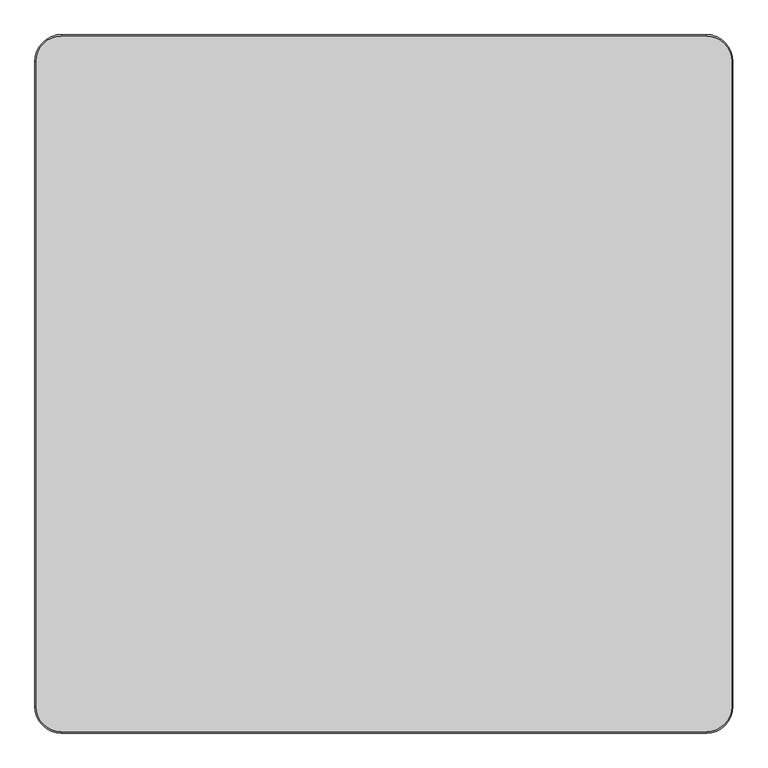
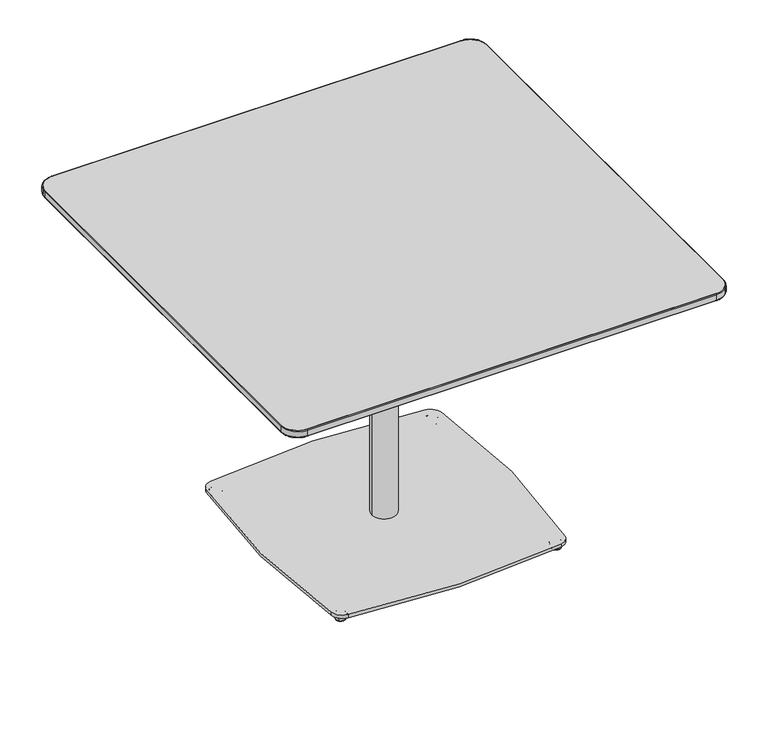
"""IFC4 building model written with IfcOpenShell, lengths in millimetres: furniture geometry, Coalesse_AM_Table_Conference_Montara650_WorkHeight_Square : 42D x 42W."""

from ifc_helpers import new_model, si_unit, point, frame, frame_2d, origin, place, context, project, spatial, polyline, circle_curve, ellipse_curve, trimmed, segment, composite_curve, outline, extrude, source, transform, mapped, element, save
from ifc_brep_helpers import plane_surface, cylinder_surface, revolved_surface, spline_surface, advanced_brep


def furniture_07d230b4(model_context):
    return source(origin(), model_context, "Body", "SolidModel", [
        advanced_brep(
        [(252.2843813, 244.9990703, 0.0), (266.9696661, 259.6843552, 0.0), (259.6270237, 252.3417127, 0.0), (251.7378791, 244.4525682, 0.5718943), (267.5161683, 260.2308573, 0.5718943), (249.43878, 242.1534691, 11.2068005), (269.8152674, 262.5299564, 11.2068005), (249.8538008, 242.5684899, 11.9999882), (269.4002466, 262.1149356, 11.9999882), (259.6270237, 252.3417127, 11.9999882)],
        [
            (0, 1, circle_curve(frame((259.6270237, 252.3417127, 0.0), z_axis=(0.0, 0.0, -1.0), x_axis=(0.7071067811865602, 0.7071067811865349, 0.0)), 10.3840645)),
            (1, 2),
            (2, 0),
            (1, 0, circle_curve(frame((259.6270237, 252.3417127, 0.0), z_axis=(0.0, 0.0, -1.0), x_axis=(0.7071067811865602, 0.7071067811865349, 0.0)), 10.3840645)),
            (3, 4, circle_curve(frame((259.6270237, 252.3417127, 0.5718943), z_axis=(0.0, 0.0, -1.0), x_axis=(0.7071067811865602, 0.7071067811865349, 0.0)), 11.1569353)),
            (4, 1, circle_curve(frame((266.9696661, 259.6843552, 0.8081846), z_axis=(-0.7071067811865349, 0.7071067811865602, 0.0), x_axis=(0.7071067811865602, 0.7071067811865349, 0.0)), 0.8081846)),
            (0, 3, circle_curve(frame((252.2843813, 244.9990703, 0.8081846), z_axis=(-0.7071067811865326, 0.7071067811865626, 0.0), x_axis=(-0.7071067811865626, -0.7071067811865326, 0.0)), 0.8081846)),
            (4, 3, circle_curve(frame((259.6270237, 252.3417127, 0.5718943), z_axis=(0.0, 0.0, -1.0), x_axis=(0.7071067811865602, 0.7071067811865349, 0.0)), 11.1569353)),
            (5, 6, circle_curve(frame((259.6270237, 252.3417127, 11.2068005), z_axis=(0.0, 0.0, -1.0), x_axis=(0.7071067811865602, 0.7071067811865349, 0.0)), 14.4083524)),
            (6, 4),
            (3, 5),
            (6, 5, circle_curve(frame((259.6270237, 252.3417127, 11.2068005), z_axis=(0.0, 0.0, -1.0), x_axis=(0.7071067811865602, 0.7071067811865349, 0.0)), 14.4083524)),
            (7, 8, circle_curve(frame((259.6270237, 252.3417127, 11.9999882), z_axis=(0.0, 0.0, -1.0), x_axis=(0.7071067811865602, 0.7071067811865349, 0.0)), 13.8214243)),
            (8, 6, circle_curve(frame((269.4002466, 262.1149356, 11.3862424), z_axis=(-0.7071067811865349, 0.7071067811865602, 0.0), x_axis=(0.7071067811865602, 0.7071067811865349, 0.0)), 0.6137458)),
            (5, 7, circle_curve(frame((249.8538008, 242.5684899, 11.3862424), z_axis=(-0.7071067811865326, 0.7071067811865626, 0.0), x_axis=(-0.7071067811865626, -0.7071067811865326, 0.0)), 0.6137458)),
            (8, 7, circle_curve(frame((259.6270237, 252.3417127, 11.9999882), z_axis=(0.0, 0.0, -1.0), x_axis=(0.7071067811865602, 0.7071067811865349, 0.0)), 13.8214243)),
            (9, 8),
            (7, 9),
        ],
        [
            plane_surface(frame((259.6270237, 252.3417127, 0.0), z_axis=(0.0, 0.0, -1.0000000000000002), x_axis=(0.7071067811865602, 0.7071067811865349, 0.0))),
            revolved_surface(trimmed(ellipse_curve(frame((266.9696661, 259.6843552, 0.8081846), z_axis=(0.7071067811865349, -0.7071067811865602, 0.0), x_axis=(0.7071067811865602, 0.7071067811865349, 0.0)), 0.8081846, 0.8081846), [point((266.9696661, 259.6843552, 0.0))], [point((267.5161683, 260.2308573, 0.5718943))], True, "CARTESIAN"), (259.6270237, 252.3417127, 12.2086845), (0.0, 0.0, 1.0)),
            revolved_surface(polyline([(267.5161683, 260.2308573, 0.5718943), (269.8152674, 262.5299564, 11.2068005)]), (259.6270237, 252.3417127, 12.2086845), (0.0, 0.0, 1.0)),
            revolved_surface(trimmed(ellipse_curve(frame((269.4002466, 262.1149356, 11.3862424), z_axis=(0.7071067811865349, -0.7071067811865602, 0.0), x_axis=(0.7071067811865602, 0.7071067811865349, 0.0)), 0.6137458, 0.6137458), [point((269.8152674, 262.5299564, 11.2068005))], [point((269.4002466, 262.1149356, 11.9999882))], True, "CARTESIAN"), (259.6270237, 252.3417127, 12.2086845), (0.0, 0.0, 1.0)),
            plane_surface(frame((259.6270237, 252.3417127, 11.9999882), z_axis=(0.0, 0.0, 1.0000000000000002), x_axis=(0.7071067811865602, 0.7071067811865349, 0.0))),
        ],
        [
            (0, [[1, 2, 3]]),
            (0, [[4, -3, -2]]),
            (1, [[5, 6, -1, 7]]),
            (1, [[8, -7, -4, -6]]),
            (2, [[9, 10, -5, 11]]),
            (2, [[12, -11, -8, -10]]),
            (3, [[13, 14, -9, 15]]),
            (3, [[16, -15, -12, -14]]),
            (4, [[17, -13, 18]]),
            (4, [[-18, -16, -17]]),
        ],
    ),
        advanced_brep(
        [(259.6270237, -268.2167127, 0.0), (266.9696661, -275.5593552, 0.0), (252.2843813, -260.8740703, 0.0), (267.5161683, -276.1058573, 0.5718943), (251.7378791, -260.3275682, 0.5718943), (269.8152674, -278.4049564, 11.2068005), (249.43878, -258.0284691, 11.2068005), (269.4002466, -277.9899356, 11.9999882), (249.8538008, -258.4434899, 11.9999882), (259.6270237, -268.2167127, 11.9999882)],
        [
            (0, 1),
            (1, 2, circle_curve(frame((259.6270237, -268.2167127, 0.0), z_axis=(0.0, 0.0, -1.0), x_axis=(0.7071067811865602, -0.7071067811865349, 0.0)), 10.3840645)),
            (2, 0),
            (2, 1, circle_curve(frame((259.6270237, -268.2167127, 0.0), z_axis=(0.0, 0.0, -1.0), x_axis=(0.7071067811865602, -0.7071067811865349, 0.0)), 10.3840645)),
            (1, 3, circle_curve(frame((266.9696661, -275.5593552, 0.8081846), z_axis=(-0.7071067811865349, -0.7071067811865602, 0.0), x_axis=(0.7071067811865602, -0.7071067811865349, 0.0)), 0.8081846)),
            (3, 4, circle_curve(frame((259.6270237, -268.2167127, 0.5718943), z_axis=(0.0, 0.0, -1.0), x_axis=(0.7071067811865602, -0.7071067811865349, 0.0)), 11.1569353)),
            (4, 2, circle_curve(frame((252.2843813, -260.8740703, 0.8081846), z_axis=(-0.7071067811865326, -0.7071067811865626, 0.0), x_axis=(-0.7071067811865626, 0.7071067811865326, 0.0)), 0.8081846)),
            (4, 3, circle_curve(frame((259.6270237, -268.2167127, 0.5718943), z_axis=(0.0, 0.0, -1.0), x_axis=(0.7071067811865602, -0.7071067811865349, 0.0)), 11.1569353)),
            (3, 5),
            (5, 6, circle_curve(frame((259.6270237, -268.2167127, 11.2068005), z_axis=(0.0, 0.0, -1.0), x_axis=(0.7071067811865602, -0.7071067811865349, 0.0)), 14.4083524)),
            (6, 4),
            (6, 5, circle_curve(frame((259.6270237, -268.2167127, 11.2068005), z_axis=(0.0, 0.0, -1.0), x_axis=(0.7071067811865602, -0.7071067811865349, 0.0)), 14.4083524)),
            (5, 7, circle_curve(frame((269.4002466, -277.9899356, 11.3862424), z_axis=(-0.7071067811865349, -0.7071067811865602, 0.0), x_axis=(0.7071067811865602, -0.7071067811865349, 0.0)), 0.6137458)),
            (7, 8, circle_curve(frame((259.6270237, -268.2167127, 11.9999882), z_axis=(0.0, 0.0, -1.0), x_axis=(0.7071067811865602, -0.7071067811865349, 0.0)), 13.8214243)),
            (8, 6, circle_curve(frame((249.8538008, -258.4434899, 11.3862424), z_axis=(-0.7071067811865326, -0.7071067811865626, 0.0), x_axis=(-0.7071067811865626, 0.7071067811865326, 0.0)), 0.6137458)),
            (8, 7, circle_curve(frame((259.6270237, -268.2167127, 11.9999882), z_axis=(0.0, 0.0, -1.0), x_axis=(0.7071067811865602, -0.7071067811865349, 0.0)), 13.8214243)),
            (7, 9),
            (9, 8),
        ],
        [
            plane_surface(frame((259.6270237, -268.2167127, 0.0), z_axis=(0.0, 0.0, -1.0000000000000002), x_axis=(0.7071067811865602, -0.7071067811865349, 0.0))),
            revolved_surface(trimmed(ellipse_curve(frame((266.9696661, -275.5593552, 0.8081846), z_axis=(0.7071067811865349, 0.7071067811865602, 0.0), x_axis=(0.7071067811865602, -0.7071067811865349, 0.0)), 0.8081846, 0.8081846), [point((267.5161683, -276.1058573, 0.5718943))], [point((266.9696661, -275.5593552, 0.0))], True, "CARTESIAN"), (259.6270237, -268.2167127, 12.2086845), (0.0, 0.0, -1.0)),
            revolved_surface(polyline([(269.8152674, -278.4049564, 11.2068005), (267.5161683, -276.1058573, 0.5718943)]), (259.6270237, -268.2167127, 12.2086845), (0.0, 0.0, -1.0)),
            revolved_surface(trimmed(ellipse_curve(frame((269.4002466, -277.9899356, 11.3862424), z_axis=(0.7071067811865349, 0.7071067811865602, 0.0), x_axis=(0.7071067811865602, -0.7071067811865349, 0.0)), 0.6137458, 0.6137458), [point((269.4002466, -277.9899356, 11.9999882))], [point((269.8152674, -278.4049564, 11.2068005))], True, "CARTESIAN"), (259.6270237, -268.2167127, 12.2086845), (0.0, 0.0, -1.0)),
            plane_surface(frame((259.6270237, -268.2167127, 11.9999882), z_axis=(0.0, 0.0, 1.0000000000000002), x_axis=(0.7071067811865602, -0.7071067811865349, 0.0))),
        ],
        [
            (0, [[1, 2, 3]]),
            (0, [[-3, 4, -1]]),
            (1, [[-2, 5, 6, 7]]),
            (1, [[-4, -7, 8, -5]]),
            (2, [[-6, 9, 10, 11]]),
            (2, [[-8, -11, 12, -9]]),
            (3, [[-10, 13, 14, 15]]),
            (3, [[-12, -15, 16, -13]]),
            (4, [[-14, 17, 18]]),
            (4, [[-16, -18, -17]]),
        ],
    ),
        extrude(outline(composite_curve([segment(trimmed(circle_curve(frame_2d((252.4620101, 244.7741595)), 31.75), [point((257.2212429, 276.1654354))], [point((283.8374336, 249.6368029))], False, "CARTESIAN"), True, "CONTINUOUS"), segment(trimmed(circle_curve(frame_2d((-1338.8141764, -1.8458925)), 1642.0236885), [point((283.8374336, 249.6368029))], [point((281.5966066, -267.3843791))], False, "CARTESIAN"), True, "CONTINUOUS"), segment(trimmed(circle_curve(frame_2d((256.5309305, -263.2768394)), 25.4), [point((281.5966066, -267.3843791))], [point((260.3854879, -288.3826631))], False, "CARTESIAN"), True, "CONTINUOUS"), segment(trimmed(circle_curve(frame_2d((1.8210899, 1395.720493)), 1703.8365498), [point((260.3854879, -288.3826631))], [point((-253.486505, -288.8794656))], False, "CARTESIAN"), True, "CONTINUOUS"), segment(trimmed(circle_curve(frame_2d((-248.7289969, -257.4879282)), 31.75), [point((-253.486505, -288.8794656))], [point((-280.1193859, -262.2530073))], False, "CARTESIAN"), True, "CONTINUOUS"), segment(trimmed(circle_curve(frame_2d((1447.4963883, 5.89e-05)), 1747.4074894), [point((-280.1193859, -262.2530073))], [point((-281.3896101, 253.7442979))], False, "CARTESIAN"), True, "CONTINUOUS"), segment(trimmed(circle_curve(frame_2d((-256.2588351, 250.0559175)), 25.4), [point((-281.3896101, 253.7442979))], [point((-260.1643924, 275.1538581))], False, "CARTESIAN"), True, "CONTINUOUS"), segment(trimmed(circle_curve(frame_2d((1.8210899, -1408.420493)), 1703.8365498), [point((-260.1643924, 275.1538581))], [point((257.2212429, 276.1654354))], False, "CARTESIAN"), True, "CONTINUOUS")], self_intersect=False)), frame((0.0, 0.0, 11.9999882), z_axis=(0.0, 0.0, 1.0), x_axis=(1.0, 0.0, 0.0)), (0.0, 0.0, 1.0), 8.0000083),
        advanced_brep(
        [(-259.6270237, 252.3417127, 0.0), (-266.9696661, 259.6843552, 0.0), (-252.2843813, 244.9990703, 0.0), (-267.5161683, 260.2308573, 0.5718943), (-251.7378791, 244.4525682, 0.5718943), (-269.8152674, 262.5299564, 11.2068005), (-249.43878, 242.1534691, 11.2068005), (-269.4002466, 262.1149356, 11.9999882), (-249.8538008, 242.5684899, 11.9999882), (-259.6270237, 252.3417127, 11.9999882)],
        [
            (0, 1),
            (1, 2, circle_curve(frame((-259.6270237, 252.3417127, 0.0), z_axis=(0.0, 0.0, -1.0), x_axis=(-0.7071067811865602, 0.7071067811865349, 0.0)), 10.3840645)),
            (2, 0),
            (2, 1, circle_curve(frame((-259.6270237, 252.3417127, 0.0), z_axis=(0.0, 0.0, -1.0), x_axis=(-0.7071067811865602, 0.7071067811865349, 0.0)), 10.3840645)),
            (1, 3, circle_curve(frame((-266.9696661, 259.6843552, 0.8081846), z_axis=(0.7071067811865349, 0.7071067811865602, 0.0), x_axis=(-0.7071067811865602, 0.7071067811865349, 0.0)), 0.8081846)),
            (3, 4, circle_curve(frame((-259.6270237, 252.3417127, 0.5718943), z_axis=(0.0, 0.0, -1.0), x_axis=(-0.7071067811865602, 0.7071067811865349, 0.0)), 11.1569353)),
            (4, 2, circle_curve(frame((-252.2843813, 244.9990703, 0.8081846), z_axis=(0.7071067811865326, 0.7071067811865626, 0.0), x_axis=(0.7071067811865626, -0.7071067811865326, 0.0)), 0.8081846)),
            (4, 3, circle_curve(frame((-259.6270237, 252.3417127, 0.5718943), z_axis=(0.0, 0.0, -1.0), x_axis=(-0.7071067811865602, 0.7071067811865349, 0.0)), 11.1569353)),
            (3, 5),
            (5, 6, circle_curve(frame((-259.6270237, 252.3417127, 11.2068005), z_axis=(0.0, 0.0, -1.0), x_axis=(-0.7071067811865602, 0.7071067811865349, 0.0)), 14.4083524)),
            (6, 4),
            (6, 5, circle_curve(frame((-259.6270237, 252.3417127, 11.2068005), z_axis=(0.0, 0.0, -1.0), x_axis=(-0.7071067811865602, 0.7071067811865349, 0.0)), 14.4083524)),
            (5, 7, circle_curve(frame((-269.4002466, 262.1149356, 11.3862424), z_axis=(0.7071067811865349, 0.7071067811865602, 0.0), x_axis=(-0.7071067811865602, 0.7071067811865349, 0.0)), 0.6137458)),
            (7, 8, circle_curve(frame((-259.6270237, 252.3417127, 11.9999882), z_axis=(0.0, 0.0, -1.0), x_axis=(-0.7071067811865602, 0.7071067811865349, 0.0)), 13.8214243)),
            (8, 6, circle_curve(frame((-249.8538008, 242.5684899, 11.3862424), z_axis=(0.7071067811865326, 0.7071067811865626, 0.0), x_axis=(0.7071067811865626, -0.7071067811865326, 0.0)), 0.6137458)),
            (8, 7, circle_curve(frame((-259.6270237, 252.3417127, 11.9999882), z_axis=(0.0, 0.0, -1.0), x_axis=(-0.7071067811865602, 0.7071067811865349, 0.0)), 13.8214243)),
            (7, 9),
            (9, 8),
        ],
        [
            plane_surface(frame((-259.6270237, 252.3417127, 0.0), z_axis=(0.0, 0.0, -1.0000000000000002), x_axis=(-0.7071067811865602, 0.7071067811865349, 0.0))),
            revolved_surface(trimmed(ellipse_curve(frame((-266.9696661, 259.6843552, 0.8081846), z_axis=(-0.7071067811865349, -0.7071067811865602, 0.0), x_axis=(-0.7071067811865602, 0.7071067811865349, 0.0)), 0.8081846, 0.8081846), [point((-267.5161683, 260.2308573, 0.5718943))], [point((-266.9696661, 259.6843552, 0.0))], True, "CARTESIAN"), (-259.6270237, 252.3417127, 12.2086845), (0.0, 0.0, -1.0)),
            revolved_surface(polyline([(-269.8152674, 262.5299564, 11.2068005), (-267.5161683, 260.2308573, 0.5718943)]), (-259.6270237, 252.3417127, 12.2086845), (0.0, 0.0, -1.0)),
            revolved_surface(trimmed(ellipse_curve(frame((-269.4002466, 262.1149356, 11.3862424), z_axis=(-0.7071067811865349, -0.7071067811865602, 0.0), x_axis=(-0.7071067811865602, 0.7071067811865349, 0.0)), 0.6137458, 0.6137458), [point((-269.4002466, 262.1149356, 11.9999882))], [point((-269.8152674, 262.5299564, 11.2068005))], True, "CARTESIAN"), (-259.6270237, 252.3417127, 12.2086845), (0.0, 0.0, -1.0)),
            plane_surface(frame((-259.6270237, 252.3417127, 11.9999882), z_axis=(0.0, 0.0, 1.0000000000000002), x_axis=(-0.7071067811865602, 0.7071067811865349, 0.0))),
        ],
        [
            (0, [[1, 2, 3]]),
            (0, [[-3, 4, -1]]),
            (1, [[-2, 5, 6, 7]]),
            (1, [[-4, -7, 8, -5]]),
            (2, [[-6, 9, 10, 11]]),
            (2, [[-8, -11, 12, -9]]),
            (3, [[-10, 13, 14, 15]]),
            (3, [[-12, -15, 16, -13]]),
            (4, [[-14, 17, 18]]),
            (4, [[-16, -18, -17]]),
        ],
    ),
        advanced_brep(
        [(-252.2843813, -260.8740703, 0.0), (-266.9696661, -275.5593552, 0.0), (-259.6270237, -268.2167127, 0.0), (-251.7378791, -260.3275682, 0.5718943), (-267.5161683, -276.1058573, 0.5718943), (-249.43878, -258.0284691, 11.2068005), (-269.8152674, -278.4049564, 11.2068005), (-249.8538008, -258.4434899, 11.9999882), (-269.4002466, -277.9899356, 11.9999882), (-259.6270237, -268.2167127, 11.9999882)],
        [
            (0, 1, circle_curve(frame((-259.6270237, -268.2167127, 0.0), z_axis=(0.0, 0.0, -1.0), x_axis=(-0.7071067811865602, -0.7071067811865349, 0.0)), 10.3840645)),
            (1, 2),
            (2, 0),
            (1, 0, circle_curve(frame((-259.6270237, -268.2167127, 0.0), z_axis=(0.0, 0.0, -1.0), x_axis=(-0.7071067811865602, -0.7071067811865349, 0.0)), 10.3840645)),
            (3, 4, circle_curve(frame((-259.6270237, -268.2167127, 0.5718943), z_axis=(0.0, 0.0, -1.0), x_axis=(-0.7071067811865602, -0.7071067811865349, 0.0)), 11.1569353)),
            (4, 1, circle_curve(frame((-266.9696661, -275.5593552, 0.8081846), z_axis=(0.7071067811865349, -0.7071067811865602, 0.0), x_axis=(-0.7071067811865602, -0.7071067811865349, 0.0)), 0.8081846)),
            (0, 3, circle_curve(frame((-252.2843813, -260.8740703, 0.8081846), z_axis=(0.7071067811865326, -0.7071067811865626, 0.0), x_axis=(0.7071067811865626, 0.7071067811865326, 0.0)), 0.8081846)),
            (4, 3, circle_curve(frame((-259.6270237, -268.2167127, 0.5718943), z_axis=(0.0, 0.0, -1.0), x_axis=(-0.7071067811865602, -0.7071067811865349, 0.0)), 11.1569353)),
            (5, 6, circle_curve(frame((-259.6270237, -268.2167127, 11.2068005), z_axis=(0.0, 0.0, -1.0), x_axis=(-0.7071067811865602, -0.7071067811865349, 0.0)), 14.4083524)),
            (6, 4),
            (3, 5),
            (6, 5, circle_curve(frame((-259.6270237, -268.2167127, 11.2068005), z_axis=(0.0, 0.0, -1.0), x_axis=(-0.7071067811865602, -0.7071067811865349, 0.0)), 14.4083524)),
            (7, 8, circle_curve(frame((-259.6270237, -268.2167127, 11.9999882), z_axis=(0.0, 0.0, -1.0), x_axis=(-0.7071067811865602, -0.7071067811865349, 0.0)), 13.8214243)),
            (8, 6, circle_curve(frame((-269.4002466, -277.9899356, 11.3862424), z_axis=(0.7071067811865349, -0.7071067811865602, 0.0), x_axis=(-0.7071067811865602, -0.7071067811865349, 0.0)), 0.6137458)),
            (5, 7, circle_curve(frame((-249.8538008, -258.4434899, 11.3862424), z_axis=(0.7071067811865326, -0.7071067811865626, 0.0), x_axis=(0.7071067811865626, 0.7071067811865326, 0.0)), 0.6137458)),
            (8, 7, circle_curve(frame((-259.6270237, -268.2167127, 11.9999882), z_axis=(0.0, 0.0, -1.0), x_axis=(-0.7071067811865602, -0.7071067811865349, 0.0)), 13.8214243)),
            (9, 8),
            (7, 9),
        ],
        [
            plane_surface(frame((-259.6270237, -268.2167127, 0.0), z_axis=(0.0, 0.0, -1.0000000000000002), x_axis=(-0.7071067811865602, -0.7071067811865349, 0.0))),
            revolved_surface(trimmed(ellipse_curve(frame((-266.9696661, -275.5593552, 0.8081846), z_axis=(-0.7071067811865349, 0.7071067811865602, 0.0), x_axis=(-0.7071067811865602, -0.7071067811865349, 0.0)), 0.8081846, 0.8081846), [point((-266.9696661, -275.5593552, 0.0))], [point((-267.5161683, -276.1058573, 0.5718943))], True, "CARTESIAN"), (-259.6270237, -268.2167127, 12.2086845), (0.0, 0.0, 1.0)),
            revolved_surface(polyline([(-267.5161683, -276.1058573, 0.5718943), (-269.8152674, -278.4049564, 11.2068005)]), (-259.6270237, -268.2167127, 12.2086845), (0.0, 0.0, 1.0)),
            revolved_surface(trimmed(ellipse_curve(frame((-269.4002466, -277.9899356, 11.3862424), z_axis=(-0.7071067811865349, 0.7071067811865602, 0.0), x_axis=(-0.7071067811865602, -0.7071067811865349, 0.0)), 0.6137458, 0.6137458), [point((-269.8152674, -278.4049564, 11.2068005))], [point((-269.4002466, -277.9899356, 11.9999882))], True, "CARTESIAN"), (-259.6270237, -268.2167127, 12.2086845), (0.0, 0.0, 1.0)),
            plane_surface(frame((-259.6270237, -268.2167127, 11.9999882), z_axis=(0.0, 0.0, 1.0000000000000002), x_axis=(-0.7071067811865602, -0.7071067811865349, 0.0))),
        ],
        [
            (0, [[1, 2, 3]]),
            (0, [[4, -3, -2]]),
            (1, [[5, 6, -1, 7]]),
            (1, [[8, -7, -4, -6]]),
            (2, [[9, 10, -5, 11]]),
            (2, [[12, -11, -8, -10]]),
            (3, [[13, 14, -9, 15]]),
            (3, [[16, -15, -12, -14]]),
            (4, [[17, -13, 18]]),
            (4, [[-18, -16, -17]]),
        ],
    ),
        advanced_brep(
        [(-259.4526224, 252.1653521, 0.0), (-266.7952648, 259.5079945, 0.0), (-252.1099799, 244.8227097, 0.0), (-267.3417669, 260.0544967, 0.5718943), (-251.5634778, 244.2762075, 0.5718943), (-269.640866, 262.3535958, 11.2068005), (-249.2643787, 241.9771084, 11.2068005), (-269.2258452, 261.938575, 11.9999882), (-249.6793995, 242.3921292, 11.9999882), (-259.4526224, 252.1653521, 11.9999882)],
        [
            (0, 1),
            (1, 2, circle_curve(frame((-259.4526224, 252.1653521, 0.0), z_axis=(0.0, 0.0, -1.0), x_axis=(-0.7071067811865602, 0.7071067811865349, 0.0)), 10.3840645)),
            (2, 0),
            (2, 1, circle_curve(frame((-259.4526224, 252.1653521, 0.0), z_axis=(0.0, 0.0, -1.0), x_axis=(-0.7071067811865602, 0.7071067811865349, 0.0)), 10.3840645)),
            (1, 3, circle_curve(frame((-266.7952648, 259.5079945, 0.8081846), z_axis=(0.7071067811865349, 0.7071067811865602, 0.0), x_axis=(-0.7071067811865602, 0.7071067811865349, 0.0)), 0.8081846)),
            (3, 4, circle_curve(frame((-259.4526224, 252.1653521, 0.5718943), z_axis=(0.0, 0.0, -1.0), x_axis=(-0.7071067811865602, 0.7071067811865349, 0.0)), 11.1569353)),
            (4, 2, circle_curve(frame((-252.1099799, 244.8227097, 0.8081846), z_axis=(0.7071067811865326, 0.7071067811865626, 0.0), x_axis=(0.7071067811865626, -0.7071067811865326, 0.0)), 0.8081846)),
            (4, 3, circle_curve(frame((-259.4526224, 252.1653521, 0.5718943), z_axis=(0.0, 0.0, -1.0), x_axis=(-0.7071067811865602, 0.7071067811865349, 0.0)), 11.1569353)),
            (3, 5),
            (5, 6, circle_curve(frame((-259.4526224, 252.1653521, 11.2068005), z_axis=(0.0, 0.0, -1.0), x_axis=(-0.7071067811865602, 0.7071067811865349, 0.0)), 14.4083524)),
            (6, 4),
            (6, 5, circle_curve(frame((-259.4526224, 252.1653521, 11.2068005), z_axis=(0.0, 0.0, -1.0), x_axis=(-0.7071067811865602, 0.7071067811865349, 0.0)), 14.4083524)),
            (5, 7, circle_curve(frame((-269.2258452, 261.938575, 11.3862424), z_axis=(0.7071067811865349, 0.7071067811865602, 0.0), x_axis=(-0.7071067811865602, 0.7071067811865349, 0.0)), 0.6137458)),
            (7, 8, circle_curve(frame((-259.4526224, 252.1653521, 11.9999882), z_axis=(0.0, 0.0, -1.0), x_axis=(-0.7071067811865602, 0.7071067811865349, 0.0)), 13.8214243)),
            (8, 6, circle_curve(frame((-249.6793995, 242.3921292, 11.3862424), z_axis=(0.7071067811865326, 0.7071067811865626, 0.0), x_axis=(0.7071067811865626, -0.7071067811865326, 0.0)), 0.6137458)),
            (8, 7, circle_curve(frame((-259.4526224, 252.1653521, 11.9999882), z_axis=(0.0, 0.0, -1.0), x_axis=(-0.7071067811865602, 0.7071067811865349, 0.0)), 13.8214243)),
            (7, 9),
            (9, 8),
        ],
        [
            plane_surface(frame((-259.4526224, 252.1653521, 0.0), z_axis=(0.0, 0.0, -1.0000000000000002), x_axis=(-0.7071067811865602, 0.7071067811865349, 0.0))),
            revolved_surface(trimmed(ellipse_curve(frame((-266.7952648, 259.5079945, 0.8081846), z_axis=(-0.7071067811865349, -0.7071067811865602, 0.0), x_axis=(-0.7071067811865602, 0.7071067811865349, 0.0)), 0.8081846, 0.8081846), [point((-267.3417669, 260.0544967, 0.5718943))], [point((-266.7952648, 259.5079945, 0.0))], True, "CARTESIAN"), (-259.4526224, 252.1653521, 12.2086845), (0.0, 0.0, -1.0)),
            revolved_surface(polyline([(-269.640866, 262.3535958, 11.2068005), (-267.3417669, 260.0544967, 0.5718943)]), (-259.4526224, 252.1653521, 12.2086845), (0.0, 0.0, -1.0)),
            revolved_surface(trimmed(ellipse_curve(frame((-269.2258452, 261.938575, 11.3862424), z_axis=(-0.7071067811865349, -0.7071067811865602, 0.0), x_axis=(-0.7071067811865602, 0.7071067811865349, 0.0)), 0.6137458, 0.6137458), [point((-269.2258452, 261.938575, 11.9999882))], [point((-269.640866, 262.3535958, 11.2068005))], True, "CARTESIAN"), (-259.4526224, 252.1653521, 12.2086845), (0.0, 0.0, -1.0)),
            plane_surface(frame((-259.4526224, 252.1653521, 11.9999882), z_axis=(0.0, 0.0, 1.0000000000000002), x_axis=(-0.7071067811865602, 0.7071067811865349, 0.0))),
        ],
        [
            (0, [[1, 2, 3]]),
            (0, [[-3, 4, -1]]),
            (1, [[-2, 5, 6, 7]]),
            (1, [[-4, -7, 8, -5]]),
            (2, [[-6, 9, 10, 11]]),
            (2, [[-8, -11, 12, -9]]),
            (3, [[-10, 13, 14, 15]]),
            (3, [[-12, -15, 16, -13]]),
            (4, [[-14, 17, 18]]),
            (4, [[-16, -18, -17]]),
        ],
    ),
        advanced_brep(
        [(468.4626362, 468.4635082, 693.930027), (468.4626362, -468.4635082, 693.930027), (-468.4626362, -468.4635082, 693.930027), (-468.4626362, 468.4635082, 693.930027), (493.188625, 531.368, 706.195891), (-493.188625, 531.368, 706.195891), (-531.288625, 493.268, 706.195891), (-531.288625, -493.268, 706.195891), (-493.188625, -531.368, 706.195891), (493.188625, -531.368, 706.195891), (531.288625, -493.268, 706.195891), (531.288625, 493.268, 706.195891)],
        [
            (0, 1),
            (1, 2),
            (2, 3),
            (3, 0),
            (4, 5),
            (5, 6, circle_curve(frame((-493.188625, 493.268, 706.195891), z_axis=(0.0, 0.0, 1.0), x_axis=(1.0, 0.0, 0.0)), 38.1)),
            (6, 7),
            (7, 8, circle_curve(frame((-493.188625, -493.268, 706.195891), z_axis=(0.0, 0.0, 1.0), x_axis=(1.0, 0.0, 0.0)), 38.1)),
            (8, 9),
            (9, 10, circle_curve(frame((493.188625, -493.268, 706.195891), z_axis=(0.0, 0.0, 1.0), x_axis=(1.0, 0.0, 0.0)), 38.1)),
            (10, 11),
            (11, 4, circle_curve(frame((493.188625, 493.268, 706.195891), z_axis=(0.0, 0.0, 1.0), x_axis=(1.0, 0.0, 0.0)), 38.1)),
            (11, 0),
            (0, 4),
            (10, 1),
            (9, 1),
            (8, 2),
            (7, 2),
            (6, 3),
            (5, 3),
        ],
        [
            plane_surface(frame((0.0, 0.0, 693.930027), z_axis=(0.0, 0.0, -1.0), x_axis=(-1.0, 0.0, 0.0))),
            plane_surface(frame((0.0, 0.0, 706.195891), z_axis=(0.0, 0.0, 1.0), x_axis=(-1.0, 0.0, 0.0))),
            spline_surface(2, 1, [[(493.188625, 531.368, 706.195891), (468.4626362, 468.4635082, 693.930027)], [(531.2886250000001, 531.3680000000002, 706.195891), (468.4626362, 468.4635082, 693.930027)], [(531.288625, 493.268, 706.195891), (468.4626362, 468.4635082, 693.930027)]], [3, 3], [2, 2], [0.0, 1.0], [0.0, 1.0], weights=[[1.0, 1.0], [0.707106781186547, 0.707106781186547], [1.0, 1.0]]),
            plane_surface(frame((531.288625, 0.0, 706.195891), z_axis=(0.19161772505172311, 0.0, -0.9814696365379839), x_axis=(0.0, -1.0, 0.0))),
            spline_surface(2, 1, [[(531.288625, -493.268, 706.195891), (468.4626362, -468.4635082, 693.930027)], [(531.2886249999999, -531.3679999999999, 706.195891), (468.4626362, -468.4635082, 693.930027)], [(493.188625, -531.368, 706.195891), (468.4626362, -468.4635082, 693.930027)]], [3, 3], [2, 2], [0.0, 1.0], [0.0, 1.0], weights=[[1.0, 1.0], [0.7071067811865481, 0.7071067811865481], [1.0, 1.0]]),
            plane_surface(frame((0.0, -531.368, 706.195891), z_axis=(0.0, -0.19138735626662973, -0.9815145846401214), x_axis=(-1.0, 0.0, 0.0))),
            spline_surface(2, 1, [[(-493.188625, -531.368, 706.195891), (-468.4626362, -468.4635082, 693.930027)], [(-531.2886250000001, -531.3680000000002, 706.195891), (-468.4626362, -468.4635082, 693.930027)], [(-531.288625, -493.268, 706.195891), (-468.4626362, -468.4635082, 693.930027)]], [3, 3], [2, 2], [0.0, 1.0], [0.0, 1.0], weights=[[1.0, 1.0], [0.707106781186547, 0.707106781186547], [1.0, 1.0]]),
            plane_surface(frame((-531.288625, 0.0, 706.195891), z_axis=(-0.1916177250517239, 0.0, -0.9814696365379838), x_axis=(0.0, 1.0, 0.0))),
            spline_surface(2, 1, [[(-531.288625, 493.268, 706.195891), (-468.4626362, 468.4635082, 693.930027)], [(-531.2886249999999, 531.3679999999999, 706.195891), (-468.4626362, 468.4635082, 693.930027)], [(-493.188625, 531.368, 706.195891), (-468.4626362, 468.4635082, 693.930027)]], [3, 3], [2, 2], [0.0, 1.0], [0.0, 1.0], weights=[[1.0, 1.0], [0.7071067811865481, 0.7071067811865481], [1.0, 1.0]]),
            plane_surface(frame((0.0, 531.368, 706.195891), z_axis=(0.0, 0.19138735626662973, -0.9815145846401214), x_axis=(1.0, 0.0, 0.0))),
        ],
        [
            (0, [[1, 2, 3, 4]]),
            (1, [[5, 6, 7, 8, 9, 10, 11, 12]]),
            (2, [[-12, 13, 14]]),
            (3, [[-11, 15, -1, -13]]),
            (4, [[-10, 16, -15]]),
            (5, [[-9, 17, -2, -16]]),
            (6, [[-8, 18, -17]]),
            (7, [[-7, 19, -3, -18]]),
            (8, [[-6, 20, -19]]),
            (9, [[-5, -14, -4, -20]]),
        ],
    ),
        extrude(outline(composite_curve([segment(trimmed(circle_curve(frame_2d((493.188625, 493.268)), 38.1), [point((493.188625, 531.368))], [point((531.288625, 493.268))], False, "CARTESIAN"), True, "CONTINUOUS"), segment(polyline([(531.288625, 493.268), (531.288625, -493.268)]), True, "CONTINUOUS"), segment(trimmed(circle_curve(frame_2d((493.188625, -493.268)), 38.1), [point((531.288625, -493.268))], [point((493.188625, -531.368))], False, "CARTESIAN"), True, "CONTINUOUS"), segment(polyline([(493.188625, -531.368), (-493.188625, -531.368)]), True, "CONTINUOUS"), segment(trimmed(circle_curve(frame_2d((-493.188625, -493.268)), 38.1), [point((-493.188625, -531.368))], [point((-531.288625, -493.268))], False, "CARTESIAN"), True, "CONTINUOUS"), segment(polyline([(-531.288625, -493.268), (-531.288625, 493.268)]), True, "CONTINUOUS"), segment(trimmed(circle_curve(frame_2d((-493.188625, 493.268)), 38.1), [point((-531.288625, 493.268))], [point((-493.188625, 531.368))], False, "CARTESIAN"), True, "CONTINUOUS"), segment(polyline([(-493.188625, 531.368), (493.188625, 531.368)]), True, "CONTINUOUS")], self_intersect=False)), frame((0.0, 0.0, 706.195891), z_axis=(0.0, 0.0, 1.0), x_axis=(1.0, 0.0, 0.0)), (0.0, 0.0, 1.0), 17.704109),
        advanced_brep(
        [(-533.3644915, 493.268, 708.1278467), (-493.188625, 533.4438665, 708.1278467), (-493.188625, 531.368, 706.195891), (-531.288625, 493.268, 706.195891), (-533.3644915, 493.268, 721.8999283), (-493.188625, 533.4438665, 721.8999283), (-531.288625, 493.268, 723.9), (-493.188625, 531.368, 723.9), (-531.288625, -493.268, 706.195891), (-533.3644915, -493.268, 708.1278467), (-533.3644915, -493.268, 721.8999283), (-531.288625, -493.268, 723.9), (-493.188625, -533.4438665, 708.1278467), (-493.188625, -531.368, 706.195891), (-493.188625, -533.4438665, 721.8999283), (-493.188625, -531.368, 723.9), (493.188625, -531.368, 706.195891), (493.188625, -533.4438665, 708.1278467), (493.188625, -533.4438665, 721.8999283), (493.188625, -531.368, 723.9), (533.3644915, -493.268, 708.1278467), (531.288625, -493.268, 706.195891), (533.3644915, -493.268, 721.8999283), (531.288625, -493.268, 723.9), (531.288625, 493.268, 706.195891), (533.3644915, 493.268, 708.1278467), (533.3644915, 493.268, 721.8999283), (531.288625, 493.268, 723.9), (493.188625, 533.4438665, 708.1278467), (493.188625, 531.368, 706.195891), (493.188625, 533.4438665, 721.8999283), (493.188625, 531.368, 723.9)],
        [
            (0, 1, circle_curve(frame((-493.188625, 493.268, 708.1278467), z_axis=(0.0, 0.0, -1.0), x_axis=(0.0, 1.0, 0.0)), 40.1758665)),
            (1, 2, circle_curve(frame((-493.188625, 531.5069224, 708.1278467), z_axis=(-1.0, 0.0, 0.0), x_axis=(0.0, -1.0, 0.0)), 1.9369441)),
            (2, 3, circle_curve(frame((-493.188625, 493.268, 706.195891), z_axis=(0.0, 0.0, 1.0), x_axis=(0.0, 1.0, 0.0)), 38.1)),
            (3, 0, circle_curve(frame((-531.4275474, 493.268, 708.1278467), z_axis=(0.0, 1.0, 0.0), x_axis=(1.0, 0.0, 0.0)), 1.9369441)),
            (4, 5, circle_curve(frame((-493.188625, 493.268, 721.8999283), z_axis=(0.0, 0.0, -1.0), x_axis=(0.0, 1.0, 0.0)), 40.1758665)),
            (5, 1),
            (0, 4),
            (6, 7, circle_curve(frame((-493.188625, 493.268, 723.9), z_axis=(0.0, 0.0, -1.0), x_axis=(0.0, 1.0, 0.0)), 38.1)),
            (7, 5, circle_curve(frame((-493.188625, 531.4424111, 721.8999283), z_axis=(-1.0, 0.0, 0.0), x_axis=(0.0, -1.0, 0.0)), 2.0014554)),
            (4, 6, circle_curve(frame((-531.3630361, 493.268, 721.8999283), z_axis=(0.0, 1.0, 0.0), x_axis=(1.0, 0.0, 0.0)), 2.0014554)),
            (2, 7),
            (6, 3),
            (3, 8),
            (8, 9, circle_curve(frame((-531.4275474, -493.268, 708.1278467), z_axis=(0.0, 1.0, 0.0), x_axis=(1.0, 0.0, 0.0)), 1.9369441)),
            (9, 0),
            (9, 10),
            (10, 4),
            (10, 11, circle_curve(frame((-531.3630361, -493.268, 721.8999283), z_axis=(0.0, 1.0, 0.0), x_axis=(1.0, 0.0, 0.0)), 2.0014554)),
            (11, 6),
            (11, 8),
            (12, 9, circle_curve(frame((-493.188625, -493.268, 708.1278467), z_axis=(0.0, 0.0, -1.0), x_axis=(-1.0, 0.0, 0.0)), 40.1758665)),
            (8, 13, circle_curve(frame((-493.188625, -493.268, 706.195891), z_axis=(0.0, 0.0, 1.0), x_axis=(-1.0, 0.0, 0.0)), 38.1)),
            (13, 12, circle_curve(frame((-493.188625, -531.5069224, 708.1278467), z_axis=(-1.0, 0.0, 0.0), x_axis=(0.0, 1.0, 0.0)), 1.9369441)),
            (14, 10, circle_curve(frame((-493.188625, -493.268, 721.8999283), z_axis=(0.0, 0.0, -1.0), x_axis=(-1.0, 0.0, 0.0)), 40.1758665)),
            (12, 14),
            (15, 11, circle_curve(frame((-493.188625, -493.268, 723.9), z_axis=(0.0, 0.0, -1.0), x_axis=(-1.0, 0.0, 0.0)), 38.1)),
            (14, 15, circle_curve(frame((-493.188625, -531.4424111, 721.8999283), z_axis=(-1.0, 0.0, 0.0), x_axis=(0.0, 1.0, 0.0)), 2.0014554)),
            (15, 13),
            (13, 16),
            (16, 17, circle_curve(frame((493.188625, -531.5069224, 708.1278467), z_axis=(-1.0, 0.0, 0.0), x_axis=(0.0, 1.0, 0.0)), 1.9369441)),
            (17, 12),
            (17, 18),
            (18, 14),
            (18, 19, circle_curve(frame((493.188625, -531.4424111, 721.8999283), z_axis=(-1.0, 0.0, 0.0), x_axis=(0.0, 1.0, 0.0)), 2.0014554)),
            (19, 15),
            (19, 16),
            (20, 17, circle_curve(frame((493.188625, -493.268, 708.1278467), z_axis=(0.0, 0.0, -1.0), x_axis=(0.0, -1.0, 0.0)), 40.1758665)),
            (16, 21, circle_curve(frame((493.188625, -493.268, 706.195891), z_axis=(0.0, 0.0, 1.0), x_axis=(0.0, -1.0, 0.0)), 38.1)),
            (21, 20, circle_curve(frame((531.4275474, -493.268, 708.1278467), z_axis=(0.0, -1.0, 0.0), x_axis=(-1.0, 0.0, 0.0)), 1.9369441)),
            (22, 18, circle_curve(frame((493.188625, -493.268, 721.8999283), z_axis=(0.0, 0.0, -1.0), x_axis=(0.0, -1.0, 0.0)), 40.1758665)),
            (20, 22),
            (23, 19, circle_curve(frame((493.188625, -493.268, 723.9), z_axis=(0.0, 0.0, -1.0), x_axis=(0.0, -1.0, 0.0)), 38.1)),
            (22, 23, circle_curve(frame((531.3630361, -493.268, 721.8999283), z_axis=(0.0, -1.0, 0.0), x_axis=(-1.0, 0.0, 0.0)), 2.0014554)),
            (23, 21),
            (21, 24),
            (24, 25, circle_curve(frame((531.4275474, 493.268, 708.1278467), z_axis=(0.0, -1.0, 0.0), x_axis=(-1.0, 0.0, 0.0)), 1.9369441)),
            (25, 20),
            (25, 26),
            (26, 22),
            (26, 27, circle_curve(frame((531.3630361, 493.268, 721.8999283), z_axis=(0.0, -1.0, 0.0), x_axis=(-1.0, 0.0, 0.0)), 2.0014554)),
            (27, 23),
            (27, 24),
            (28, 25, circle_curve(frame((493.188625, 493.268, 708.1278467), z_axis=(0.0, 0.0, -1.0), x_axis=(1.0, 0.0, 0.0)), 40.1758665)),
            (24, 29, circle_curve(frame((493.188625, 493.268, 706.195891), z_axis=(0.0, 0.0, 1.0), x_axis=(1.0, 0.0, 0.0)), 38.1)),
            (29, 28, circle_curve(frame((493.188625, 531.5069224, 708.1278467), z_axis=(1.0, 0.0, 0.0), x_axis=(0.0, -1.0, 0.0)), 1.9369441)),
            (30, 26, circle_curve(frame((493.188625, 493.268, 721.8999283), z_axis=(0.0, 0.0, -1.0), x_axis=(1.0, 0.0, 0.0)), 40.1758665)),
            (28, 30),
            (31, 27, circle_curve(frame((493.188625, 493.268, 723.9), z_axis=(0.0, 0.0, -1.0), x_axis=(1.0, 0.0, 0.0)), 38.1)),
            (30, 31, circle_curve(frame((493.188625, 531.4424111, 721.8999283), z_axis=(1.0, 0.0, 0.0), x_axis=(0.0, -1.0, 0.0)), 2.0014554)),
            (31, 29),
            (29, 2),
            (1, 28),
            (5, 30),
            (7, 31),
        ],
        [
            revolved_surface(trimmed(ellipse_curve(frame((-493.188625, 531.5069224, 708.1278467), z_axis=(1.0, 0.0, 0.0), x_axis=(0.0, -1.0, 0.0)), 1.9369441, 1.9369441), [point((-493.188625, 531.368, 706.195891))], [point((-493.188625, 533.4438665, 708.1278467))], True, "CARTESIAN"), (-493.188625, 493.268, 0.0), (0.0, 0.0, 1.0)),
            cylinder_surface(frame((-493.188625, 493.268, 0.0), z_axis=(0.0, 0.0, 1.0), x_axis=(0.0, 1.0, 0.0)), 40.1758665),
            revolved_surface(trimmed(ellipse_curve(frame((-493.188625, 531.4424111, 721.8999283), z_axis=(1.0, 0.0, 0.0), x_axis=(0.0, -1.0, 0.0)), 2.0014554, 2.0014554), [point((-493.188625, 533.4438665, 721.8999283))], [point((-493.188625, 531.368, 723.9))], True, "CARTESIAN"), (-493.188625, 493.268, 0.0), (0.0, 0.0, 1.0)),
            revolved_surface(polyline([(-493.188625, 531.3679999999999, 723.9), (-493.188625, 531.3679999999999, 706.195891)]), (-493.188625, 493.268, 0.0), (0.0, 0.0, 1.0)),
            cylinder_surface(frame((-531.4275474, 493.268, 708.1278467), z_axis=(0.0, 1.0, 0.0), x_axis=(1.0, 0.0, 0.0)), 1.9369441),
            plane_surface(frame((-533.3644915, 493.268, 708.1278467), z_axis=(-1.0, 0.0, 0.0), x_axis=(0.0, -1.0, 0.0))),
            cylinder_surface(frame((-531.3630361, 493.268, 721.8999283), z_axis=(0.0, 1.0, 0.0), x_axis=(1.0, 0.0, 0.0)), 2.0014554),
            plane_surface(frame((-531.288625, 493.268, 723.9), z_axis=(1.0, 0.0, 0.0), x_axis=(0.0, -1.0, 0.0))),
            revolved_surface(trimmed(ellipse_curve(frame((-531.4275474, -493.268, 708.1278467), z_axis=(0.0, 1.0, 0.0), x_axis=(1.0, 0.0, 0.0)), 1.9369441, 1.9369441), [point((-531.288625, -493.268, 706.195891))], [point((-533.3644915, -493.268, 708.1278467))], True, "CARTESIAN"), (-493.188625, -493.268, 0.0), (0.0, 0.0, 1.0)),
            cylinder_surface(frame((-493.188625, -493.268, 0.0), z_axis=(0.0, 0.0, 1.0), x_axis=(-1.0, 0.0, 0.0)), 40.1758665),
            revolved_surface(trimmed(ellipse_curve(frame((-531.3630361, -493.268, 721.8999283), z_axis=(0.0, 1.0, 0.0), x_axis=(1.0, 0.0, 0.0)), 2.0014554, 2.0014554), [point((-533.3644915, -493.268, 721.8999283))], [point((-531.288625, -493.268, 723.9))], True, "CARTESIAN"), (-493.188625, -493.268, 0.0), (0.0, 0.0, 1.0)),
            revolved_surface(polyline([(-531.288625, -493.268, 723.9), (-531.288625, -493.268, 706.195891)]), (-493.188625, -493.268, 0.0), (0.0, 0.0, 1.0)),
            cylinder_surface(frame((-493.188625, -531.5069224, 708.1278467), z_axis=(-1.0, 0.0, 0.0), x_axis=(0.0, 1.0, 0.0)), 1.9369441),
            plane_surface(frame((-493.188625, -533.4438665, 708.1278467), z_axis=(0.0, -1.0, 0.0), x_axis=(1.0, 0.0, 0.0))),
            cylinder_surface(frame((-493.188625, -531.4424111, 721.8999283), z_axis=(-1.0, 0.0, 0.0), x_axis=(0.0, 1.0, 0.0)), 2.0014554),
            plane_surface(frame((-493.188625, -531.368, 723.9), z_axis=(0.0, 1.0, 0.0), x_axis=(1.0, 0.0, 0.0))),
            revolved_surface(trimmed(ellipse_curve(frame((493.188625, -531.5069224, 708.1278467), z_axis=(-1.0, 0.0, 0.0), x_axis=(0.0, 1.0, 0.0)), 1.9369441, 1.9369441), [point((493.188625, -531.368, 706.195891))], [point((493.188625, -533.4438665, 708.1278467))], True, "CARTESIAN"), (493.188625, -493.268, 0.0), (0.0, 0.0, 1.0)),
            cylinder_surface(frame((493.188625, -493.268, 0.0), z_axis=(0.0, 0.0, 1.0), x_axis=(0.0, -1.0, 0.0)), 40.1758665),
            revolved_surface(trimmed(ellipse_curve(frame((493.188625, -531.4424111, 721.8999283), z_axis=(-1.0, 0.0, 0.0), x_axis=(0.0, 1.0, 0.0)), 2.0014554, 2.0014554), [point((493.188625, -533.4438665, 721.8999283))], [point((493.188625, -531.368, 723.9))], True, "CARTESIAN"), (493.188625, -493.268, 0.0), (0.0, 0.0, 1.0)),
            revolved_surface(polyline([(493.188625, -531.3679999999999, 723.9), (493.188625, -531.3679999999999, 706.195891)]), (493.188625, -493.268, 0.0), (0.0, 0.0, 1.0)),
            cylinder_surface(frame((531.4275474, -493.268, 708.1278467), z_axis=(0.0, -1.0, 0.0), x_axis=(-1.0, 0.0, 0.0)), 1.9369441),
            plane_surface(frame((533.3644915, -493.268, 708.1278467), z_axis=(1.0, 0.0, 0.0), x_axis=(0.0, 1.0, 0.0))),
            cylinder_surface(frame((531.3630361, -493.268, 721.8999283), z_axis=(0.0, -1.0, 0.0), x_axis=(-1.0, 0.0, 0.0)), 2.0014554),
            plane_surface(frame((531.288625, -493.268, 723.9), z_axis=(-1.0, 0.0, 0.0), x_axis=(0.0, 1.0, 0.0))),
            revolved_surface(trimmed(ellipse_curve(frame((531.4275474, 493.268, 708.1278467), z_axis=(0.0, -1.0, 0.0), x_axis=(-1.0, 0.0, 0.0)), 1.9369441, 1.9369441), [point((531.288625, 493.268, 706.195891))], [point((533.3644915, 493.268, 708.1278467))], True, "CARTESIAN"), (493.188625, 493.268, 0.0), (0.0, 0.0, 1.0)),
            cylinder_surface(frame((493.188625, 493.268, 0.0), z_axis=(0.0, 0.0, 1.0), x_axis=(1.0, 0.0, 0.0)), 40.1758665),
            revolved_surface(trimmed(ellipse_curve(frame((531.3630361, 493.268, 721.8999283), z_axis=(0.0, -1.0, 0.0), x_axis=(-1.0, 0.0, 0.0)), 2.0014554, 2.0014554), [point((533.3644915, 493.268, 721.8999283))], [point((531.288625, 493.268, 723.9))], True, "CARTESIAN"), (493.188625, 493.268, 0.0), (0.0, 0.0, 1.0)),
            revolved_surface(polyline([(531.288625, 493.268, 723.9), (531.288625, 493.268, 706.195891)]), (493.188625, 493.268, 0.0), (0.0, 0.0, 1.0)),
            cylinder_surface(frame((493.188625, 531.5069224, 708.1278467), z_axis=(1.0, 0.0, 0.0), x_axis=(0.0, -1.0, 0.0)), 1.9369441),
            plane_surface(frame((493.188625, 533.4438665, 708.1278467), z_axis=(0.0, 1.0, 0.0), x_axis=(-1.0, 0.0, 0.0))),
            cylinder_surface(frame((493.188625, 531.4424111, 721.8999283), z_axis=(1.0, 0.0, 0.0), x_axis=(0.0, -1.0, 0.0)), 2.0014554),
            plane_surface(frame((493.188625, 531.368, 723.9), z_axis=(0.0, -1.0, 0.0), x_axis=(-1.0, 0.0, 0.0))),
        ],
        [
            (0, [[1, 2, 3, 4]]),
            (1, [[5, 6, -1, 7]]),
            (2, [[8, 9, -5, 10]]),
            (3, [[-3, 11, -8, 12]]),
            (4, [[-4, 13, 14, 15]]),
            (5, [[-7, -15, 16, 17]]),
            (6, [[-10, -17, 18, 19]]),
            (7, [[-12, -19, 20, -13]]),
            (8, [[21, -14, 22, 23]]),
            (9, [[24, -16, -21, 25]]),
            (10, [[26, -18, -24, 27]]),
            (11, [[-22, -20, -26, 28]]),
            (12, [[-23, 29, 30, 31]]),
            (13, [[-25, -31, 32, 33]]),
            (14, [[-27, -33, 34, 35]]),
            (15, [[-28, -35, 36, -29]]),
            (16, [[37, -30, 38, 39]]),
            (17, [[40, -32, -37, 41]]),
            (18, [[42, -34, -40, 43]]),
            (19, [[-38, -36, -42, 44]]),
            (20, [[-39, 45, 46, 47]]),
            (21, [[-41, -47, 48, 49]]),
            (22, [[-43, -49, 50, 51]]),
            (23, [[-44, -51, 52, -45]]),
            (24, [[53, -46, 54, 55]]),
            (25, [[56, -48, -53, 57]]),
            (26, [[58, -50, -56, 59]]),
            (27, [[-54, -52, -58, 60]]),
            (28, [[-55, 61, -2, 62]]),
            (29, [[-57, -62, -6, 63]]),
            (30, [[-59, -63, -9, 64]]),
            (31, [[-60, -64, -11, -61]]),
        ],
    ),
        advanced_brep(
        [(131.6004101, 0.0, 690.755027), (-131.6004101, 0.0, 690.755027), (-176.1626132, 0.0, 690.755027), (176.1626132, 0.0, 690.755027), (121.0488662, 0.0, 689.6460151), (-121.0488662, 0.0, 689.6460151), (48.7461809, 0.0, 674.9837029), (-48.7461809, 0.0, 674.9837029), (37.412985, 0.0, 674.9837029), (-37.412985, 0.0, 674.9837029), (29.5495828, 0.0, 19.9999965), (-29.5495828, 0.0, 19.9999965), (-29.5495828, 0.0, 686.7852036), (29.5495828, 0.0, 686.7852036), (0.0, 0.0, 19.9999965), (176.1626132, 0.0, 693.930027), (-176.1626132, 0.0, 693.930027), (0.0, 0.0, 693.930027), (33.3511087, 0.0, 676.4383874), (-33.3511087, 0.0, 676.4383874), (31.712334, 0.0, 686.7852036), (-31.712334, 0.0, 686.7852036)],
        [
            (0, 1, circle_curve(frame((0.0, 0.0, 690.755027), z_axis=(0.0, 0.0, 1.0), x_axis=(-1.0, 0.0, 0.0)), 131.6004101)),
            (1, 2),
            (2, 3, circle_curve(frame((0.0, 0.0, 690.755027), z_axis=(0.0, 0.0, -1.0), x_axis=(-1.0, 0.0, 0.0)), 176.1626132)),
            (3, 0),
            (1, 0, circle_curve(frame((0.0, 0.0, 690.755027), z_axis=(0.0, 0.0, 1.0), x_axis=(-1.0, 0.0, 0.0)), 131.6004101)),
            (3, 2, circle_curve(frame((0.0, 0.0, 690.755027), z_axis=(0.0, 0.0, -1.0), x_axis=(-1.0, 0.0, 0.0)), 176.1626132)),
            (4, 5, circle_curve(frame((0.0, 0.0, 689.6460151), z_axis=(0.0, 0.0, 1.0), x_axis=(-1.0, 0.0, 0.0)), 121.0488662)),
            (5, 1),
            (0, 4),
            (5, 4, circle_curve(frame((0.0, 0.0, 689.6460151), z_axis=(0.0, 0.0, 1.0), x_axis=(-1.0, 0.0, 0.0)), 121.0488662)),
            (6, 7, circle_curve(frame((0.0, 0.0, 674.9837029), z_axis=(0.0, 0.0, 1.0), x_axis=(-1.0, 0.0, 0.0)), 48.7461809)),
            (7, 5),
            (4, 6),
            (7, 6, circle_curve(frame((0.0, 0.0, 674.9837029), z_axis=(0.0, 0.0, 1.0), x_axis=(-1.0, 0.0, 0.0)), 48.7461809)),
            (8, 9, circle_curve(frame((0.0, 0.0, 674.9837029), z_axis=(0.0, 0.0, 1.0), x_axis=(-1.0, 0.0, 0.0)), 37.412985)),
            (9, 7),
            (6, 8),
            (9, 8, circle_curve(frame((0.0, 0.0, 674.9837029), z_axis=(0.0, 0.0, 1.0), x_axis=(-1.0, 0.0, 0.0)), 37.412985)),
            (10, 11, circle_curve(frame((0.0, 0.0, 19.9999965), z_axis=(0.0, 0.0, 1.0), x_axis=(-1.0, 0.0, 0.0)), 29.5495828)),
            (11, 12),
            (12, 13, circle_curve(frame((0.0, 0.0, 686.7852036), z_axis=(0.0, 0.0, -1.0), x_axis=(-1.0, 0.0, 0.0)), 29.5495828)),
            (13, 10),
            (11, 10, circle_curve(frame((0.0, 0.0, 19.9999965), z_axis=(0.0, 0.0, 1.0), x_axis=(-1.0, 0.0, 0.0)), 29.5495828)),
            (13, 12, circle_curve(frame((0.0, 0.0, 686.7852036), z_axis=(0.0, 0.0, -1.0), x_axis=(-1.0, 0.0, 0.0)), 29.5495828)),
            (14, 11),
            (10, 14),
            (15, 16, circle_curve(frame((0.0, 0.0, 693.930027), z_axis=(0.0, 0.0, 1.0), x_axis=(-1.0, 0.0, 0.0)), 176.1626132)),
            (16, 17),
            (17, 15),
            (16, 15, circle_curve(frame((0.0, 0.0, 693.930027), z_axis=(0.0, 0.0, 1.0), x_axis=(-1.0, 0.0, 0.0)), 176.1626132)),
            (2, 16),
            (15, 3),
            (18, 19, circle_curve(frame((0.0, 0.0, 676.4383874), z_axis=(0.0, 0.0, 1.0), x_axis=(-1.0, 0.0, 0.0)), 33.3511087)),
            (19, 9),
            (8, 18),
            (19, 18, circle_curve(frame((0.0, 0.0, 676.4383874), z_axis=(0.0, 0.0, 1.0), x_axis=(-1.0, 0.0, 0.0)), 33.3511087)),
            (20, 21, circle_curve(frame((0.0, 0.0, 686.7852036), z_axis=(0.0, 0.0, 1.0), x_axis=(-1.0, 0.0, 0.0)), 31.712334)),
            (21, 19),
            (18, 20),
            (21, 20, circle_curve(frame((0.0, 0.0, 686.7852036), z_axis=(0.0, 0.0, 1.0), x_axis=(-1.0, 0.0, 0.0)), 31.712334)),
            (12, 21),
            (20, 13),
        ],
        [
            plane_surface(frame((0.0, 0.0, 690.755027), z_axis=(0.0, 0.0, -1.0), x_axis=(-1.0, 0.0, 0.0))),
            revolved_surface(polyline([(-131.6004101, 0.0, 690.755027), (-121.0488662, 0.0, 689.6460151)]), (0.0, 0.0, 439.0999965), (0.0, 0.0, -1.0)),
            revolved_surface(polyline([(-121.0488662, 0.0, 689.6460151), (-48.7461809, 0.0, 674.9837029)]), (0.0, 0.0, 439.0999965), (0.0, 0.0, -1.0)),
            plane_surface(frame((0.0, 0.0, 674.9837029), z_axis=(0.0, 0.0, -1.0), x_axis=(-1.0, 0.0, 0.0))),
            cylinder_surface(frame((0.0, 0.0, 439.0999965), z_axis=(0.0, 0.0, -1.0), x_axis=(-1.0, 0.0, 0.0)), 29.5495828),
            plane_surface(frame((0.0, 0.0, 19.9999965), z_axis=(0.0, 0.0, -1.0), x_axis=(-1.0, 0.0, 0.0))),
            plane_surface(frame((0.0, 0.0, 693.930027), z_axis=(0.0, 0.0, 1.0), x_axis=(-1.0, 0.0, 0.0))),
            cylinder_surface(frame((0.0, 0.0, 439.0999965), z_axis=(0.0, 0.0, -1.0), x_axis=(-1.0, 0.0, 0.0)), 176.1626132),
            revolved_surface(polyline([(-37.412985, 0.0, 674.9837029), (-33.3511087, 0.0, 676.4383874)]), (0.0, 0.0, 439.0999965), (0.0, 0.0, -1.0)),
            revolved_surface(polyline([(-33.3511087, 0.0, 676.4383874), (-31.712334, 0.0, 686.7852036)]), (0.0, 0.0, 439.0999965), (0.0, 0.0, -1.0)),
            plane_surface(frame((0.0, 0.0, 686.7852036), z_axis=(0.0, 0.0, -1.0), x_axis=(-1.0, 0.0, 0.0))),
        ],
        [
            (0, [[1, 2, 3, 4]]),
            (0, [[5, -4, 6, -2]]),
            (1, [[7, 8, -1, 9]]),
            (1, [[10, -9, -5, -8]]),
            (2, [[11, 12, -7, 13]]),
            (2, [[14, -13, -10, -12]]),
            (3, [[15, 16, -11, 17]]),
            (3, [[18, -17, -14, -16]]),
            (4, [[19, 20, 21, 22]]),
            (4, [[23, -22, 24, -20]]),
            (5, [[25, -19, 26]]),
            (5, [[-26, -23, -25]]),
            (6, [[27, 28, 29]]),
            (6, [[30, -29, -28]]),
            (7, [[-3, 31, -27, 32]]),
            (7, [[-6, -32, -30, -31]]),
            (8, [[33, 34, -15, 35]]),
            (8, [[36, -35, -18, -34]]),
            (9, [[37, 38, -33, 39]]),
            (9, [[40, -39, -36, -38]]),
            (10, [[-21, 41, -37, 42]]),
            (10, [[-24, -42, -40, -41]]),
        ],
    ),
    ])


if __name__ == "__main__":
    model = new_model("IFC4")
    model_context = context("Model", 3, world=origin())
    ifc_project = project(units=[si_unit("LENGTHUNIT", "METRE", prefix="MILLI")], contexts=[model_context])
    site = spatial("IfcSite", under=ifc_project)
    building = spatial("IfcBuilding", under=site)
    placement = place(None, origin())
    furniture_shape = furniture_07d230b4(model_context)
    element("IfcFurniture", 1, ObjectType="Coalesse_AM_Table_Conference_Montara650_WorkHeight_Square : 42D x 42W", at=placement, inside=building, context=model_context, shape_type="MappedRepresentation", body=[
        mapped(furniture_shape, transform((0.0, 0.0, 0.0), x_axis=(1.0, 0.0, 0.0), y_axis=(0.0, 1.0, 0.0), z_axis=(0.0, 0.0, 1.0))),
    ])
    save(model, "model.ifc")
